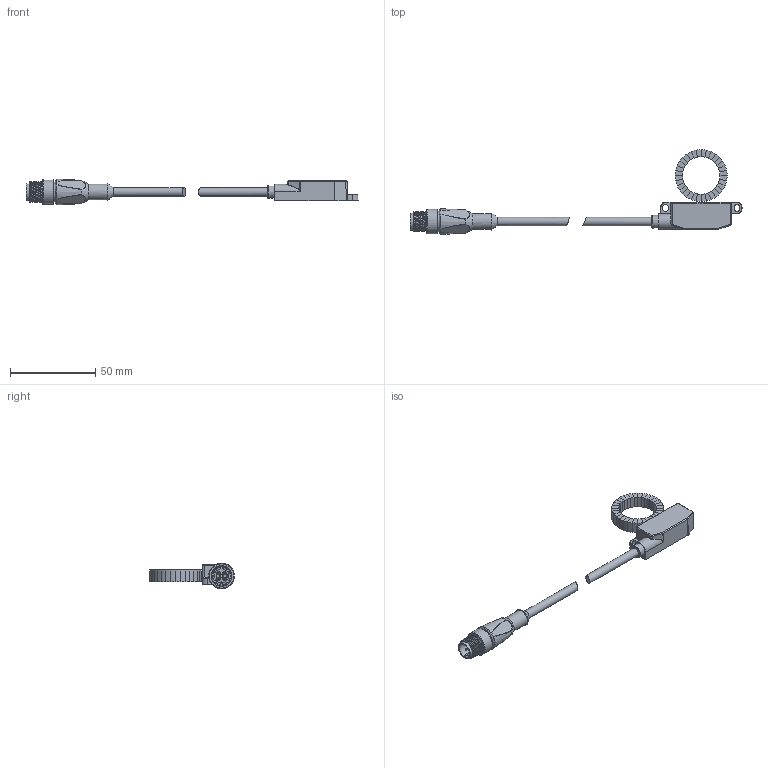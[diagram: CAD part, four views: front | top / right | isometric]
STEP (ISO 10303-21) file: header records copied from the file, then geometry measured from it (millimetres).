
FILE_DESCRIPTION(/* description */ ('CAx-IF Rec.Pracs.---Representation and Presentation of Product Manufacturing Information (PMI)---4.0---2014-10-13','CAx-IF Rec.Pracs.---3D Tessellated Geometry---0.4---2014-09-14','2;1'),/* implementation_level */ '2;1');
FILE_NAME(/* name */ 'PUB-EB200E IR-FN 8L2G_EBS B D31',/* time_stamp */ '2025-02-04T10:33:41+01:00',/* author */ (''),/* organization */ ('Baumer'),/* preprocessor_version */ 'ST-DEVELOPER v19.4',/* originating_system */ 'Solid Edge',/* authorisation */ 'Unknown');
FILE_SCHEMA (('AP242_MANAGED_MODEL_BASED_3D_ENGINEERING_MIM_LF { 1 0 10303 442 1 1 4 }'));
Length unit declared in the file: millimetre
Products named in the file (4): EB200E IR-FN 8L2G_EBS B D31; D0001019906-Gehäuse EB200E; D0001028251-Kabel A1788-CP-T0088; D0001011939-EBS.R-FN032.B022.NOA.P0031
Assembly tree (3 placements, depth 2):
  EB200E IR-FN 8L2G_EBS B D31
    D0001019906-Gehäuse EB200E
    D0001028251-Kabel A1788-CP-T0088
    D0001011939-EBS.R-FN032.B022.NOA.P0031
Bounding box: 195.29 x 49.83 x 15.05 mm (x, y, z)
Volume: 17229 mm3; surface area: 9441.7 mm2
Topology: 4 solids, 4 shells, 377 faces, 834 edges, 471 vertices
Faces by surface type: plane 156, cylinder 114, bspline 47, torus 22, sphere 21, cone 17
Full cylindrical faces by diameter (mm): 0.66 x4, 1 x4, 2 x5, 4.38 x1, 5 x2, 8.5 x1, 9.3 x1, 10 x1, 12 x1, 14.6 x1
Entity records: 15053 total; most frequent: CARTESIAN_POINT 5251, DIRECTION 1614, ORIENTED_EDGE 1494, EDGE_CURVE 747, AXIS2_PLACEMENT_3D 678, EDGE_LOOP 454, FACE_BOUND 454, VERTEX_POINT 449
